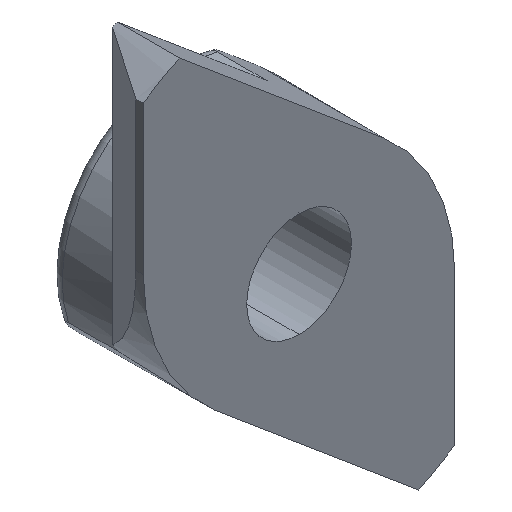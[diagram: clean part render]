
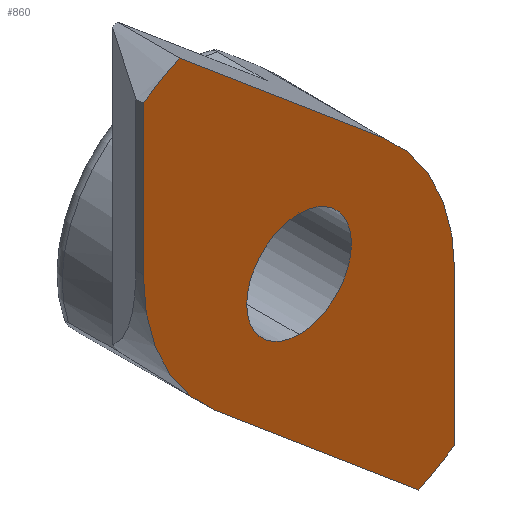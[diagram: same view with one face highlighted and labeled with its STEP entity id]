
A CAD part, isometric view. The second image highlights one B-rep face of the part: STEP entity #860.
In plain terms, the highlighted planar face has unit normal (0, -1, 0).
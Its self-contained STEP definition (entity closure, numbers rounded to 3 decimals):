
#28 = CIRCLE ( 'NONE', #74, 2.1 ) ;
#40 = VERTEX_POINT ( 'NONE', #694 ) ;
#71 = DIRECTION ( 'NONE',  ( 0., -1., 0. ) ) ;
#73 = DIRECTION ( 'NONE',  ( 0., 0., 1. ) ) ;
#74 = AXIS2_PLACEMENT_3D ( 'NONE', #236, #379, #303 ) ;
#84 = VERTEX_POINT ( 'NONE', #182 ) ;
#108 = VERTEX_POINT ( 'NONE', #481 ) ;
#116 = EDGE_CURVE ( 'NONE', #108, #186, #326, .T. ) ;
#128 = CARTESIAN_POINT ( 'NONE',  ( -3.392, 0., -3.028 ) ) ;
#153 = EDGE_CURVE ( 'NONE', #853, #40, #659, .T. ) ;
#154 = CARTESIAN_POINT ( 'NONE',  ( -1.75, 0., -3.101 ) ) ;
#164 = VERTEX_POINT ( 'NONE', #704 ) ;
#170 = VECTOR ( 'NONE', #558, 1000. ) ;
#182 = CARTESIAN_POINT ( 'NONE',  ( -6.25, 0., 3.101 ) ) ;
#186 = VERTEX_POINT ( 'NONE', #557 ) ;
#203 = CIRCLE ( 'NONE', #690, 2.1 ) ;
#206 = VERTEX_POINT ( 'NONE', #445 ) ;
#225 = DIRECTION ( 'NONE',  ( 0., 0., 1. ) ) ;
#236 = CARTESIAN_POINT ( 'NONE',  ( 0., 0., 0. ) ) ;
#239 = LINE ( 'NONE', #565, #170 ) ;
#245 = CARTESIAN_POINT ( 'NONE',  ( 1.75, 0., 3.101 ) ) ;
#267 = CARTESIAN_POINT ( 'NONE',  ( -6.25, 0., 11.119 ) ) ;
#268 = CARTESIAN_POINT ( 'NONE',  ( 0., 0., 2.1 ) ) ;
#292 = ORIENTED_EDGE ( 'NONE', *, *, #843, .T. ) ;
#303 = DIRECTION ( 'NONE',  ( 0., 0., 1. ) ) ;
#326 = LINE ( 'NONE', #267, #580 ) ;
#338 = DIRECTION ( 'NONE',  ( 0.766, 0., -0.643 ) ) ;
#350 = ORIENTED_EDGE ( 'NONE', *, *, #620, .F. ) ;
#379 = DIRECTION ( 'NONE',  ( 0., 1., 0. ) ) ;
#381 = EDGE_CURVE ( 'NONE', #427, #646, #28, .T. ) ;
#396 = AXIS2_PLACEMENT_3D ( 'NONE', #154, #71, #829 ) ;
#408 = DIRECTION ( 'NONE',  ( 0., 1., 0. ) ) ;
#409 = CARTESIAN_POINT ( 'NONE',  ( 6.25, 0., 15. ) ) ;
#418 = EDGE_CURVE ( 'NONE', #206, #108, #974, .T. ) ;
#420 = CARTESIAN_POINT ( 'NONE',  ( 0., 0., 0. ) ) ;
#421 = FACE_OUTER_BOUND ( 'NONE', #476, .T. ) ;
#427 = VERTEX_POINT ( 'NONE', #766 ) ;
#434 = ORIENTED_EDGE ( 'NONE', *, *, #381, .T. ) ;
#445 = CARTESIAN_POINT ( 'NONE',  ( -6.25, 0., 9.052 ) ) ;
#449 = DIRECTION ( 'NONE',  ( 0., 1., 0. ) ) ;
#456 = LINE ( 'NONE', #409, #503 ) ;
#463 = EDGE_LOOP ( 'NONE', ( #773, #434 ) ) ;
#465 = CARTESIAN_POINT ( 'NONE',  ( 0., 0., 0. ) ) ;
#476 = EDGE_LOOP ( 'NONE', ( #595, #292, #510, #563, #496, #784, #350, #622 ) ) ;
#481 = CARTESIAN_POINT ( 'NONE',  ( -4.797, 0., 9.899 ) ) ;
#483 = DIRECTION ( 'NONE',  ( 0., 0., 1. ) ) ;
#496 = ORIENTED_EDGE ( 'NONE', *, *, #767, .T. ) ;
#503 = VECTOR ( 'NONE', #954, 1000. ) ;
#510 = ORIENTED_EDGE ( 'NONE', *, *, #116, .F. ) ;
#537 = EDGE_CURVE ( 'NONE', #84, #757, #550, .T. ) ;
#543 = DIRECTION ( 'NONE',  ( 0., -1., 0. ) ) ;
#550 = CIRCLE ( 'NONE', #763, 8. ) ;
#557 = CARTESIAN_POINT ( 'NONE',  ( 3.392, 0., 3.028 ) ) ;
#558 = DIRECTION ( 'NONE',  ( -0.766, 0., 0.643 ) ) ;
#563 = ORIENTED_EDGE ( 'NONE', *, *, #418, .F. ) ;
#565 = CARTESIAN_POINT ( 'NONE',  ( -6.25, 0., -0.63 ) ) ;
#572 = CARTESIAN_POINT ( 'NONE',  ( -6.25, 0., 15. ) ) ;
#579 = AXIS2_PLACEMENT_3D ( 'NONE', #465, #449, #841 ) ;
#580 = VECTOR ( 'NONE', #338, 1000. ) ;
#586 = DIRECTION ( 'NONE',  ( 0., 1., 0. ) ) ;
#591 = CARTESIAN_POINT ( 'NONE',  ( -6.25, 0., 15. ) ) ;
#595 = ORIENTED_EDGE ( 'NONE', *, *, #633, .F. ) ;
#600 = AXIS2_PLACEMENT_3D ( 'NONE', #420, #408, #483 ) ;
#617 = FACE_BOUND ( 'NONE', #463, .T. ) ;
#620 = EDGE_CURVE ( 'NONE', #40, #757, #239, .T. ) ;
#622 = ORIENTED_EDGE ( 'NONE', *, *, #153, .F. ) ;
#627 = DIRECTION ( 'NONE',  ( 0., 0., 1. ) ) ;
#633 = EDGE_CURVE ( 'NONE', #164, #853, #456, .T. ) ;
#646 = VERTEX_POINT ( 'NONE', #268 ) ;
#659 = CIRCLE ( 'NONE', #600, 11. ) ;
#690 = AXIS2_PLACEMENT_3D ( 'NONE', #819, #586, #73 ) ;
#694 = CARTESIAN_POINT ( 'NONE',  ( 4.797, 0., -9.899 ) ) ;
#703 = CIRCLE ( 'NONE', #396, 8. ) ;
#704 = CARTESIAN_POINT ( 'NONE',  ( 6.25, 0., -3.101 ) ) ;
#757 = VERTEX_POINT ( 'NONE', #128 ) ;
#763 = AXIS2_PLACEMENT_3D ( 'NONE', #245, #543, #627 ) ;
#766 = CARTESIAN_POINT ( 'NONE',  ( 0., 0., -2.1 ) ) ;
#767 = EDGE_CURVE ( 'NONE', #206, #84, #932, .T. ) ;
#773 = ORIENTED_EDGE ( 'NONE', *, *, #806, .T. ) ;
#784 = ORIENTED_EDGE ( 'NONE', *, *, #537, .T. ) ;
#806 = EDGE_CURVE ( 'NONE', #646, #427, #203, .T. ) ;
#810 = DIRECTION ( 'NONE',  ( 0., 0., -1. ) ) ;
#816 = PLANE ( 'NONE',  #957 ) ;
#819 = CARTESIAN_POINT ( 'NONE',  ( 0., 0., 0. ) ) ;
#829 = DIRECTION ( 'NONE',  ( 0., 0., 1. ) ) ;
#841 = DIRECTION ( 'NONE',  ( 0., 0., 1. ) ) ;
#843 = EDGE_CURVE ( 'NONE', #164, #186, #703, .T. ) ;
#849 = VECTOR ( 'NONE', #810, 1000. ) ;
#853 = VERTEX_POINT ( 'NONE', #901 ) ;
#860 = ADVANCED_FACE ( 'NONE', ( #617, #421 ), #816, .F. ) ;
#901 = CARTESIAN_POINT ( 'NONE',  ( 6.25, 0., -9.052 ) ) ;
#905 = DIRECTION ( 'NONE',  ( 0., 1., 0. ) ) ;
#932 = LINE ( 'NONE', #572, #849 ) ;
#954 = DIRECTION ( 'NONE',  ( 0., 0., -1. ) ) ;
#957 = AXIS2_PLACEMENT_3D ( 'NONE', #591, #905, #225 ) ;
#974 = CIRCLE ( 'NONE', #579, 11. ) ;
